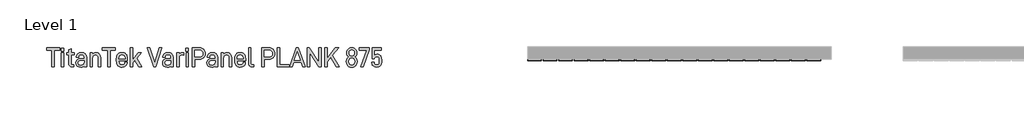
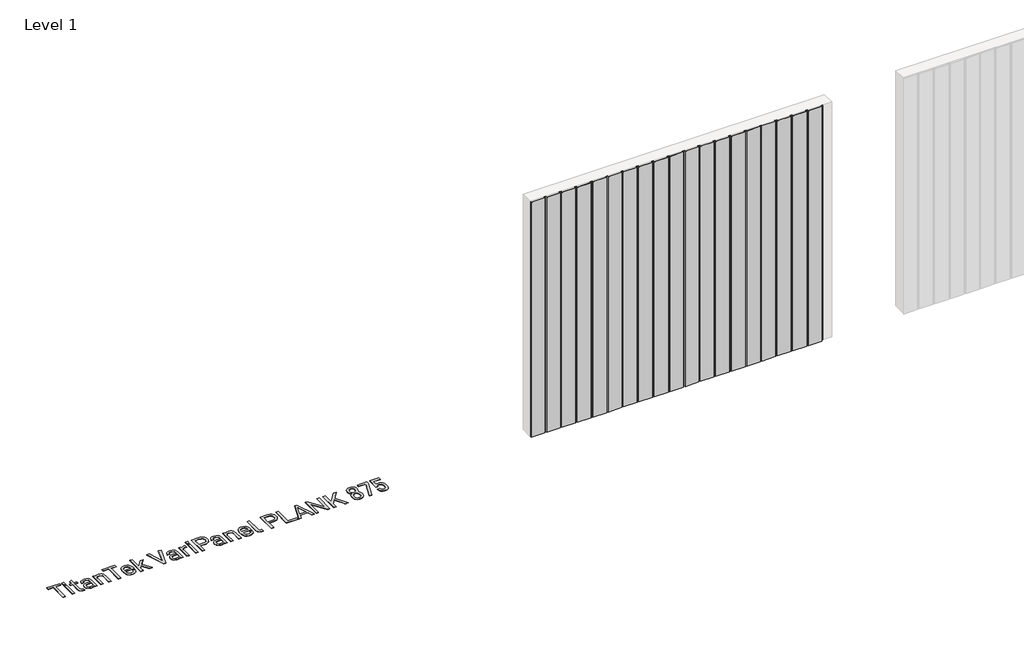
# One storey, part 17 of 33: 2 proxies.
"""IFC4 building model written with IfcOpenShell, lengths in millimetres."""

from ifc_helpers import new_model, si_unit, origin, origin_with_axes, place, context, project, spatial, polyline, outline, extrude, transform, mapped, element, save
from components import aluminum_slate_gray_5a49ca79

model = new_model("IFC4")

# Units and contexts
model_context = context("Model", 3, world=origin())
ifc_project = project(units=[si_unit("LENGTHUNIT", "METRE", prefix="MILLI")], contexts=[model_context])

# Site, building, storey
site = spatial("IfcSite", under=ifc_project)
building = spatial("IfcBuilding", under=site)
storey = spatial("IfcBuildingStorey", under=building, Name="Level 1", Elevation=0.0)

# Proxies
placement = place(None, origin())
element("IfcBuildingElementProxy", 1, Name="600mm Arial 2", ObjectType="600mm Arial 2", at=placement, inside=storey, context=model_context, shape_type="SweptSolid", body=[
    extrude(outline(polyline([(-9914.9924556, 47220.4128343), (-9914.9924556, 46952.9873502), (-9954.4439015, 46952.9873502), (-9954.4439015, 47220.4128343), (-10038.8787304, 47220.4128343), (-10038.8787304, 47257.3166776), (-9830.5576267, 47257.3166776), (-9830.5576267, 47220.4128343), (-9914.9924556, 47220.4128343)])), origin_with_axes(), (0.0, 0.0, 1.0), 5.0),
    extrude(outline(polyline([(-9763.1553408, 47253.0221475), (-9763.1553408, 47205.8551051), (-9802.6067867, 47205.8551051), (-9802.6067867, 47253.0221475), (-9763.1553408, 47253.0221475)])), origin_with_axes(), (0.0, 0.0, 1.0), 5.0),
    extrude(outline(polyline([(-9764.0288046, 47178.8505176), (-9764.0288046, 46952.9873502), (-9801.733323, 46952.9873502), (-9801.733323, 47178.8505176), (-9764.0288046, 47178.8505176)])), origin_with_axes(), (0.0, 0.0, 1.0), 5.0),
    extrude(outline(polyline([(-9648.294858, 47012.601251), (-9646.8208879, 47001.5191797), (-9642.3989777, 46993.6034145), (-9635.0291273, 46988.8539554), (-9624.7113368, 46987.2708023), (-9603.2386864, 46987.2708023), (-9603.2386864, 46952.9873502), (-9629.3698101, 46952.9873502), (-9653.1535001, 46956.9543314), (-9671.3688587, 46968.855275), (-9682.6692959, 46987.3981825), (-9686.4361083, 47011.2910554), (-9686.4361083, 47147.1146681), (-9720.2828285, 47147.1146681), (-9720.2828285, 47178.8505176), (-9686.4361083, 47178.8505176), (-9686.4361083, 47226.8910237), (-9648.294858, 47244.8698192), (-9648.294858, 47178.8505176), (-9599.3808881, 47178.8505176), (-9599.3808881, 47147.1146681), (-9648.294858, 47147.1146681), (-9648.294858, 47012.601251)])), origin_with_axes(), (0.0, 0.0, 1.0), 5.0),
    extrude(outline(polyline([(-9422.8684225, 47162.1091291), (-9413.2830677, 47151.3409589), (-9406.4363858, 47138.2526505), (-9400.9590402, 47105.1156196), (-9400.9590402, 46952.9873502), (-9438.2996154, 46952.9873502), (-9438.2996154, 46969.2920069), (-9456.7151427, 46956.8451485), (-9473.7476858, 46952.0410978), (-9493.9829293, 46950.4397476), (-9526.0281305, 46954.7160806), (-9550.1029751, 46967.5450794), (-9565.2248162, 46989.3270816), (-9570.2654299, 47018.5699199), (-9565.1338304, 47046.2114081), (-9549.7390318, 47067.4111012), (-9525.063681, 47080.6222403), (-9493.1094655, 47085.0259534), (-9438.7363472, 47085.0259534), (-9438.7363472, 47105.5523515), (-9441.6296959, 47124.441005), (-9450.3097419, 47138.1616647), (-9464.2305704, 47146.1866129), (-9483.7197302, 47148.8615956), (-9502.2262434, 47146.6051476), (-9515.819523, 47139.8358036), (-9524.1720201, 47129.4816187), (-9526.9561857, 47115.4516073), (-9526.9561857, 47109.8468816), (-9563.8600291, 47109.8468816), (-9563.8600291, 47116.2522824), (-9558.4008807, 47143.2932642), (-9542.0234354, 47164.2927885), (-9516.8203668, 47177.4493362), (-9484.1564621, 47181.8348521), (-9448.6719974, 47176.9034213), (-9434.5600987, 47170.7391329), (-9422.8684225, 47162.1091291)]), holes=[polyline([(-9450.6736851, 46994.5496669), (-9441.7206817, 47009.4531421), (-9438.7363472, 47031.0167784), (-9438.7363472, 47054.9642428), (-9488.8149354, 47054.9642428), (-9507.9538, 47052.7168933), (-9521.6244175, 47045.974845), (-9529.826788, 47034.7380979), (-9532.5609115, 47019.0066518), (-9529.8540837, 47003.0522906), (-9521.7336004, 46991.6563182), (-9508.1994616, 46984.8187348), (-9489.2516673, 46982.5395404), (-9466.104878, 46985.542072), (-9450.6736851, 46994.5496669)])]), origin_with_axes(), (0.0, 0.0, 1.0), 5.0),
    extrude(outline(polyline([(-9306.6977441, 47178.8505176), (-9306.6977441, 47160.4349903), (-9288.2822167, 47173.6825238), (-9271.1222935, 47179.4692211), (-9252.2518372, 47181.3981202), (-9219.9154813, 47175.9389718), (-9206.7907787, 47169.1150363), (-9195.6950595, 47159.5615265), (-9187.0650557, 47147.9790333), (-9180.9007673, 47134.1946835), (-9175.9693365, 47100.0204144), (-9175.9693365, 46952.9873502), (-9213.673855, 46952.9873502), (-9213.673855, 47095.7258843), (-9216.6763866, 47118.1083928), (-9225.6839815, 47133.8671346), (-9240.3781893, 47143.4752358), (-9259.567096, 47146.6779363), (-9278.7378056, 47143.4752358), (-9293.3774219, 47133.8671346), (-9303.0401146, 47117.453295), (-9306.2610122, 47095.7258843), (-9306.2610122, 46952.9873502), (-9343.9655306, 46952.9873502), (-9343.9655306, 47178.8505176), (-9306.6977441, 47178.8505176)])), origin_with_axes(), (0.0, 0.0, 1.0), 5.0),
    extrude(outline(polyline([(-9025.2240514, 47220.4128343), (-9025.2240514, 46952.9873502), (-9064.6754974, 46952.9873502), (-9064.6754974, 47220.4128343), (-9149.1103263, 47220.4128343), (-9149.1103263, 47257.3166776), (-8940.7892225, 47257.3166776), (-8940.7892225, 47220.4128343), (-9025.2240514, 47220.4128343)])), origin_with_axes(), (0.0, 0.0, 1.0), 5.0),
    extrude(outline(polyline([(-8884.5235994, 47047.2486463), (-8881.1025331, 47017.8329349), (-8870.8393341, 46998.8805913), (-8854.3527058, 46988.5900965), (-8832.2613519, 46985.1599316), (-8812.990558, 46987.7257314), (-8798.8513635, 46995.4231306), (-8790.1713175, 47007.1966941), (-8787.2779689, 47022.86445), (-8787.2779689, 47028.3963871), (-8750.3741256, 47028.3963871), (-8750.3741256, 47021.9909863), (-8756.0516399, 46992.8391337), (-8763.1485329, 46980.528754), (-8773.084183, 46969.7287387), (-8799.7976159, 46955.2619954), (-8834.3722226, 46950.4397476), (-8853.3222916, 46951.9387388), (-8870.2843206, 46956.4357123), (-8885.2583098, 46963.9306682), (-8898.2442591, 46974.4236064), (-8908.7371973, 46988.0237099), (-8916.2321532, 47004.8401617), (-8920.7291267, 47024.8729617), (-8922.2281179, 47048.1221101), (-8922.2281179, 47085.8266285), (-8920.7314014, 47108.5321367), (-8916.2412518, 47128.1714231), (-8908.7576691, 47144.7444879), (-8898.2806535, 47158.2513309), (-8885.4971476, 47168.5691214), (-8870.7301511, 47175.9389718), (-8853.979664, 47180.360882), (-8835.2456864, 47181.8348521), (-8816.8438069, 47180.360882), (-8800.2161506, 47175.9389718), (-8785.3627176, 47168.5691214), (-8772.2835079, 47158.2513309), (-8761.9657174, 47144.9082623), (-8754.595867, 47128.389789), (-8750.1739568, 47108.6959111), (-8748.6999867, 47085.8266285), (-8748.6999867, 47055.8377065), (-8884.5235994, 47055.8377065), (-8884.5235994, 47047.2486463)]), holes=[polyline([(-8871.2760659, 47133.4304027), (-8881.2117161, 47115.30603), (-8884.5235994, 47086.7000923), (-8786.4045051, 47086.2633604), (-8786.4045051, 47089.6844267), (-8789.6254027, 47116.9255774), (-8799.2880954, 47134.3038665), (-8814.9012599, 47143.5844188), (-8835.2456864, 47146.6779363), (-8855.60831, 47143.3660529), (-8871.2760659, 47133.4304027)])]), origin_with_axes(), (0.0, 0.0, 1.0), 5.0),
    extrude(outline(polyline([(-8663.391694, 47020.3168474), (-8663.391694, 46952.9873502), (-8701.0962125, 46952.9873502), (-8701.0962125, 47257.3166776), (-8663.391694, 47257.3166776), (-8663.391694, 47070.8321675), (-8575.0990669, 47178.8505176), (-8528.3687564, 47178.8505176), (-8602.5403863, 47091.8680861), (-8517.6688255, 46952.9873502), (-8563.5256722, 46952.9873502), (-8627.7980463, 47062.6798392), (-8663.391694, 47020.3168474)])), origin_with_axes(), (0.0, 0.0, 1.0), 5.0),
    extrude(outline(polyline([(-8240.5624516, 47257.3166776), (-8199.0001349, 47257.3166776), (-8298.4294248, 46952.9873502), (-8330.1652743, 46952.9873502), (-8429.1578324, 47257.3166776), (-8387.5955157, 47257.3166776), (-8313.8606177, 47022.86445), (-8240.5624516, 47257.3166776)])), origin_with_axes(), (0.0, 0.0, 1.0), 5.0),
    extrude(outline(polyline([(-8039.3018464, 47162.1091291), (-8029.7164916, 47151.3409589), (-8022.8698097, 47138.2526505), (-8017.3924641, 47105.1156196), (-8017.3924641, 46952.9873502), (-8054.7330393, 46952.9873502), (-8054.7330393, 46969.2920069), (-8073.1485666, 46956.8451485), (-8090.1811097, 46952.0410978), (-8110.4163532, 46950.4397476), (-8142.4615544, 46954.7160806), (-8166.536399, 46967.5450794), (-8181.6582401, 46989.3270816), (-8186.6988538, 47018.5699199), (-8181.5672543, 47046.2114081), (-8166.1724557, 47067.4111012), (-8141.4971049, 47080.6222403), (-8109.5428894, 47085.0259534), (-8055.1697712, 47085.0259534), (-8055.1697712, 47105.5523515), (-8058.0631198, 47124.441005), (-8066.7431658, 47138.1616647), (-8080.6639943, 47146.1866129), (-8100.1531542, 47148.8615956), (-8118.6596673, 47146.6051476), (-8132.2529469, 47139.8358036), (-8140.605444, 47129.4816187), (-8143.3896097, 47115.4516073), (-8143.3896097, 47109.8468816), (-8180.293453, 47109.8468816), (-8180.293453, 47116.2522824), (-8174.8343046, 47143.2932642), (-8158.4568593, 47164.2927885), (-8133.2537908, 47177.4493362), (-8100.589886, 47181.8348521), (-8065.1054213, 47176.9034213), (-8050.9935226, 47170.7391329), (-8039.3018464, 47162.1091291)]), holes=[polyline([(-8067.107109, 46994.5496669), (-8058.1541056, 47009.4531421), (-8055.1697712, 47031.0167784), (-8055.1697712, 47054.9642428), (-8105.2483594, 47054.9642428), (-8124.3872239, 47052.7168933), (-8138.0578414, 47045.974845), (-8146.2602119, 47034.7380979), (-8148.9943354, 47019.0066518), (-8146.2875076, 47003.0522906), (-8138.1670243, 46991.6563182), (-8124.6328855, 46984.8187348), (-8105.6850912, 46982.5395404), (-8082.5383019, 46985.542072), (-8067.107109, 46994.5496669)])]), origin_with_axes(), (0.0, 0.0, 1.0), 5.0),
    extrude(outline(polyline([(-7870.4321886, 47181.8348521), (-7850.2697337, 47179.7239814), (-7850.2697337, 47140.7092673), (-7876.8375894, 47146.313993), (-7895.1712295, 47142.7746451), (-7909.8472402, 47132.1566015), (-7919.4826371, 47115.7518604), (-7922.6944361, 47094.8524206), (-7922.6944361, 46952.9873502), (-7960.3989546, 46952.9873502), (-7960.3989546, 47178.8505176), (-7923.131168, 47178.8505176), (-7923.131168, 47159.1247947), (-7905.5891044, 47173.3185806), (-7889.4846166, 47179.7057842), (-7870.4321886, 47181.8348521)])), origin_with_axes(), (0.0, 0.0, 1.0), 5.0),
    extrude(outline(polyline([(-7773.9872331, 47253.0221475), (-7773.9872331, 47205.8551051), (-7813.438679, 47205.8551051), (-7813.438679, 47253.0221475), (-7773.9872331, 47253.0221475)])), origin_with_axes(), (0.0, 0.0, 1.0), 5.0),
    extrude(outline(polyline([(-7774.8606969, 47178.8505176), (-7774.8606969, 46952.9873502), (-7812.5652153, 46952.9873502), (-7812.5652153, 47178.8505176), (-7774.8606969, 47178.8505176)])), origin_with_axes(), (0.0, 0.0, 1.0), 5.0),
    extrude(outline(polyline([(-7529.6357497, 47233.2964245), (-7518.2033831, 47219.8396237), (-7510.0374069, 47203.926206), (-7505.1378212, 47185.5561716), (-7503.504626, 47164.7295204), (-7505.1651169, 47145.044741), (-7510.1465899, 47127.5527196), (-7518.4490448, 47112.2534562), (-7530.0724816, 47099.1469507), (-7544.1297888, 47088.6380899), (-7560.6073184, 47081.1317609), (-7579.5050706, 47076.6279634), (-7600.8230452, 47075.1266976), (-7671.5008201, 47075.1266976), (-7671.5008201, 46952.9873502), (-7711.3889979, 46952.9873502), (-7711.3889979, 47257.3166776), (-7600.8230452, 47257.3166776), (-7579.6415493, 47255.8154118), (-7560.7165014, 47251.3116143), (-7544.0479016, 47243.8052853), (-7529.6357497, 47233.2964245)]), holes=[polyline([(-7558.3872648, 47125.2780744), (-7547.141419, 47141.5827311), (-7543.3928038, 47164.7295204), (-7547.250602, 47189.3502798), (-7558.8239966, 47206.7285689), (-7577.8946218, 47216.9917679), (-7603.3706478, 47220.4128343), (-7671.5008201, 47220.4128343), (-7671.5008201, 47112.0305409), (-7603.3706478, 47112.0305409), (-7577.130341, 47115.3424243), (-7558.3872648, 47125.2780744)])]), origin_with_axes(), (0.0, 0.0, 1.0), 5.0),
    extrude(outline(polyline([(-7331.2139018, 47162.1091291), (-7321.628547, 47151.3409589), (-7314.781865, 47138.2526505), (-7309.3045194, 47105.1156196), (-7309.3045194, 46952.9873502), (-7346.6450946, 46952.9873502), (-7346.6450946, 46969.2920069), (-7365.060622, 46956.8451485), (-7382.093165, 46952.0410978), (-7402.3284085, 46950.4397476), (-7434.3736098, 46954.7160806), (-7458.4484543, 46967.5450794), (-7473.5702954, 46989.3270816), (-7478.6109091, 47018.5699199), (-7473.4793096, 47046.2114081), (-7458.0845111, 47067.4111012), (-7433.4091602, 47080.6222403), (-7401.4549448, 47085.0259534), (-7347.0818265, 47085.0259534), (-7347.0818265, 47105.5523515), (-7349.9751752, 47124.441005), (-7358.6552212, 47138.1616647), (-7372.5760496, 47146.1866129), (-7392.0652095, 47148.8615956), (-7410.5717226, 47146.6051476), (-7424.1650022, 47139.8358036), (-7432.5174993, 47129.4816187), (-7435.301665, 47115.4516073), (-7435.301665, 47109.8468816), (-7472.2055083, 47109.8468816), (-7472.2055083, 47116.2522824), (-7466.7463599, 47143.2932642), (-7450.3689146, 47164.2927885), (-7425.1658461, 47177.4493362), (-7392.5019414, 47181.8348521), (-7357.0174766, 47176.9034213), (-7342.905578, 47170.7391329), (-7331.2139018, 47162.1091291)]), holes=[polyline([(-7359.0191644, 46994.5496669), (-7350.066161, 47009.4531421), (-7347.0818265, 47031.0167784), (-7347.0818265, 47054.9642428), (-7397.1604147, 47054.9642428), (-7416.2992792, 47052.7168933), (-7429.9698967, 47045.974845), (-7438.1722672, 47034.7380979), (-7440.9063907, 47019.0066518), (-7438.199563, 47003.0522906), (-7430.0790797, 46991.6563182), (-7416.5449409, 46984.8187348), (-7397.5971466, 46982.5395404), (-7374.4503573, 46985.542072), (-7359.0191644, 46994.5496669)])]), origin_with_axes(), (0.0, 0.0, 1.0), 5.0),
    extrude(outline(polyline([(-7215.0432233, 47178.8505176), (-7215.0432233, 47160.4349903), (-7196.627696, 47173.6825238), (-7179.4677728, 47179.4692211), (-7160.5973164, 47181.3981202), (-7128.2609606, 47175.9389718), (-7115.1362579, 47169.1150363), (-7104.0405387, 47159.5615265), (-7095.410535, 47147.9790333), (-7089.2462465, 47134.1946835), (-7084.3148158, 47100.0204144), (-7084.3148158, 46952.9873502), (-7122.0193342, 46952.9873502), (-7122.0193342, 47095.7258843), (-7125.0218659, 47118.1083928), (-7134.0294607, 47133.8671346), (-7148.7236686, 47143.4752358), (-7167.9125753, 47146.6779363), (-7187.0832848, 47143.4752358), (-7201.7229012, 47133.8671346), (-7211.3855939, 47117.453295), (-7214.6064915, 47095.7258843), (-7214.6064915, 46952.9873502), (-7252.3110099, 46952.9873502), (-7252.3110099, 47178.8505176), (-7215.0432233, 47178.8505176)])), origin_with_axes(), (0.0, 0.0, 1.0), 5.0),
    extrude(outline(polyline([(-6997.8419048, 47047.2486463), (-6994.4208384, 47017.8329349), (-6984.1576394, 46998.8805913), (-6967.6710112, 46988.5900965), (-6945.5796572, 46985.1599316), (-6926.3088633, 46987.7257314), (-6912.1696689, 46995.4231306), (-6903.4896229, 47007.1966941), (-6900.5962742, 47022.86445), (-6900.5962742, 47028.3963871), (-6863.6924309, 47028.3963871), (-6863.6924309, 47021.9909863), (-6869.3699452, 46992.8391337), (-6876.4668382, 46980.528754), (-6886.4024883, 46969.7287387), (-6913.1159213, 46955.2619954), (-6947.6905279, 46950.4397476), (-6966.6405969, 46951.9387388), (-6983.602626, 46956.4357123), (-6998.5766152, 46963.9306682), (-7011.5625645, 46974.4236064), (-7022.0555027, 46988.0237099), (-7029.5504585, 47004.8401617), (-7034.047432, 47024.8729617), (-7035.5464232, 47048.1221101), (-7035.5464232, 47085.8266285), (-7034.0497067, 47108.5321367), (-7029.5595571, 47128.1714231), (-7022.0759745, 47144.7444879), (-7011.5989588, 47158.2513309), (-6998.8154529, 47168.5691214), (-6984.0484564, 47175.9389718), (-6967.2979694, 47180.360882), (-6948.5639917, 47181.8348521), (-6930.1621122, 47180.360882), (-6913.534456, 47175.9389718), (-6898.681023, 47168.5691214), (-6885.6018132, 47158.2513309), (-6875.2840227, 47144.9082623), (-6867.9141723, 47128.389789), (-6863.4922621, 47108.6959111), (-6862.018292, 47085.8266285), (-6862.018292, 47055.8377065), (-6997.8419048, 47055.8377065), (-6997.8419048, 47047.2486463)]), holes=[polyline([(-6984.5943713, 47133.4304027), (-6994.5300214, 47115.30603), (-6997.8419048, 47086.7000923), (-6899.7228105, 47086.2633604), (-6899.7228105, 47089.6844267), (-6902.943708, 47116.9255774), (-6912.6064007, 47134.3038665), (-6928.2195652, 47143.5844188), (-6948.5639917, 47146.6779363), (-6968.9266153, 47143.3660529), (-6984.5943713, 47133.4304027)])]), origin_with_axes(), (0.0, 0.0, 1.0), 5.0),
    extrude(outline(polyline([(-6799.4200568, 46968.855275), (-6810.6659025, 46988.362632), (-6814.4145178, 47014.2753899), (-6814.4145178, 47257.3166776), (-6776.7099994, 47257.3166776), (-6776.7099994, 47016.0223174), (-6775.3270151, 47002.6110094), (-6771.1780623, 46994.112935), (-6764.1903523, 46989.6364333), (-6753.5632101, 46988.1442661), (-6731.7266164, 46988.1442661), (-6731.7266164, 46952.9873502), (-6756.5475445, 46952.9873502), (-6781.4230642, 46956.9543314), (-6799.4200568, 46968.855275)])), origin_with_axes(), (0.0, 0.0, 1.0), 5.0),
    extrude(outline(polyline([(-6420.9190995, 47233.2964245), (-6409.4867329, 47219.8396237), (-6401.3207567, 47203.926206), (-6396.421171, 47185.5561716), (-6394.7879758, 47164.7295204), (-6396.4484667, 47145.044741), (-6401.4299397, 47127.5527196), (-6409.7323946, 47112.2534562), (-6421.3558314, 47099.1469507), (-6435.4131386, 47088.6380899), (-6451.8906682, 47081.1317609), (-6470.7884204, 47076.6279634), (-6492.106395, 47075.1266976), (-6562.7841699, 47075.1266976), (-6562.7841699, 46952.9873502), (-6602.6723477, 46952.9873502), (-6602.6723477, 47257.3166776), (-6492.106395, 47257.3166776), (-6470.9248991, 47255.8154118), (-6451.9998512, 47251.3116143), (-6435.3312514, 47243.8052853), (-6420.9190995, 47233.2964245)]), holes=[polyline([(-6449.6706146, 47125.2780744), (-6438.4247688, 47141.5827311), (-6434.6761536, 47164.7295204), (-6438.5339518, 47189.3502798), (-6450.1073464, 47206.7285689), (-6469.1779716, 47216.9917679), (-6494.6539976, 47220.4128343), (-6562.7841699, 47220.4128343), (-6562.7841699, 47112.0305409), (-6494.6539976, 47112.0305409), (-6468.4136908, 47115.3424243), (-6449.6706146, 47125.2780744)])]), origin_with_axes(), (0.0, 0.0, 1.0), 5.0),
    extrude(outline(polyline([(-6315.8850839, 47257.3166776), (-6315.8850839, 46989.8184049), (-6168.4880765, 46989.8184049), (-6168.4880765, 46952.9873502), (-6355.7732617, 46952.9873502), (-6355.7732617, 47257.3166776), (-6315.8850839, 47257.3166776)])), origin_with_axes(), (0.0, 0.0, 1.0), 5.0),
    extrude(outline(polyline([(-6093.6613488, 47024.1746457), (-6118.482277, 46952.9873502), (-6160.4813255, 46952.9873502), (-6049.9153728, 47257.3166776), (-6017.81558, 47257.3166776), (-5907.1768387, 46952.9873502), (-5949.1758872, 46952.9873502), (-5974.069604, 47024.1746457), (-6093.6613488, 47024.1746457)]), holes=[polyline([(-6034.047448, 47196.4653699), (-6081.6512223, 47059.2587729), (-5986.0797306, 47059.2587729), (-6034.047448, 47196.4653699)])]), origin_with_axes(), (0.0, 0.0, 1.0), 5.0),
    extrude(outline(polyline([(-5696.3081323, 47257.3166776), (-5656.4199545, 47257.3166776), (-5656.4199545, 46952.9873502), (-5694.1972616, 46952.9873502), (-5840.7208052, 47181.3981202), (-5840.7208052, 46952.9873502), (-5880.608983, 46952.9873502), (-5880.608983, 47257.3166776), (-5842.9044646, 47257.3166776), (-5696.3081323, 47029.7065827), (-5696.3081323, 47257.3166776)])), origin_with_axes(), (0.0, 0.0, 1.0), 5.0),
    extrude(outline(polyline([(-5556.5539327, 47036.9854473), (-5556.5539327, 46952.9873502), (-5596.4421105, 46952.9873502), (-5596.4421105, 47257.3166776), (-5556.5539327, 47257.3166776), (-5556.5539327, 47093.1054931), (-5426.262257, 47257.3166776), (-5377.8578077, 47257.3166776), (-5475.1762269, 47137.288201), (-5365.8476812, 46952.9873502), (-5412.5779917, 46952.9873502), (-5500.8706188, 47105.5523515), (-5556.5539327, 47036.9854473)])), origin_with_axes(), (0.0, 0.0, 1.0), 5.0),
    extrude(outline(polyline([(-5211.8996957, 46959.3927511), (-5229.1506047, 46972.0761726), (-5242.3253495, 46989.4544617), (-5250.3502977, 47010.4175916), (-5253.0252804, 47034.0011128), (-5253.0252804, 47044.7010437), (-5250.1319318, 47067.8660302), (-5241.4518858, 47088.4470198), (-5230.1150542, 47102.7681858), (-5216.6309576, 47113.2679479), (-5237.1573557, 47134.7405984), (-5244.5817975, 47153.1379286), (-5247.0566115, 47174.1192557), (-5247.0566115, 47182.7083158), (-5244.5817975, 47203.3802912), (-5237.1573557, 47222.5964936), (-5224.7468916, 47238.9739389), (-5208.9153612, 47251.27522), (-5189.5353843, 47258.9726193), (-5167.3530445, 47261.5384191), (-5144.8431559, 47258.9726193), (-5125.353996, 47251.27522), (-5109.0311422, 47238.9739389), (-5097.0392129, 47222.5964936), (-5089.6693625, 47204.035389), (-5087.2127457, 47182.7083158), (-5087.2127457, 47174.1192557), (-5089.7785455, 47152.9195626), (-5097.4759447, 47134.7405984), (-5106.2651737, 47123.1490066), (-5118.0751314, 47113.2679479), (-5103.590191, 47101.8219334), (-5092.7446828, 47088.0102879), (-5084.3921857, 47067.4292983), (-5081.60802, 47045.1377756), (-5081.60802, 47034.4378447), (-5084.3921857, 47009.9080711), (-5092.7446828, 46989.4544617), (-5105.9194276, 46972.0761726), (-5123.1703366, 46959.3927511), (-5144.1880581, 46951.3678029), (-5167.7897764, 46948.6928201), (-5191.0093544, 46951.3678029), (-5211.8996957, 46959.3927511)]), holes=[polyline([(-5138.1647976, 47142.8929267), (-5129.8123006, 47156.8865438), (-5127.0281349, 47174.1192557), (-5127.0281349, 47183.1450477), (-5129.8123006, 47199.7408589), (-5138.1647976, 47213.5707016), (-5151.2485567, 47222.2507476), (-5167.3530445, 47225.1440962), (-5183.5121239, 47222.2507476), (-5196.0317709, 47213.5707016), (-5204.384268, 47199.7408589), (-5207.1684337, 47183.1450477), (-5207.1684337, 47174.1192557), (-5204.493451, 47156.2678403), (-5196.4685028, 47142.8929267), (-5183.8305742, 47133.8853318), (-5167.3166502, 47130.8828002), (-5150.8027262, 47133.8853318), (-5138.1647976, 47142.8929267)]), polyline([(-5133.8702675, 46998.4074651), (-5124.5897152, 47014.293587), (-5121.4961978, 47034.4378447), (-5121.4961978, 47045.1377756), (-5124.5897152, 47065.2820333), (-5133.8702675, 47081.1681552), (-5148.2460251, 47091.1038053), (-5167.3530445, 47094.4156887), (-5186.1871066, 47090.9855238), (-5200.7630329, 47080.695029), (-5210.0981767, 47064.9453858), (-5213.2098913, 47045.1377756), (-5213.2098913, 47034.4378447), (-5210.0981767, 47014.6302345), (-5200.7630329, 46998.8805913), (-5186.1871066, 46988.5900965), (-5167.3530445, 46985.1599316), (-5148.6827569, 46988.471815), (-5133.8702675, 46998.4074651)])]), origin_with_axes(), (0.0, 0.0, 1.0), 5.0),
    extrude(outline(polyline([(-4886.2432951, 47223.8339006), (-4983.9256576, 46952.9873502), (-5024.2505672, 46952.9873502), (-4926.4954162, 47220.4128343), (-5045.2136972, 47220.4128343), (-5045.2136972, 47257.3166776), (-4886.2432951, 47257.3166776), (-4886.2432951, 47223.8339006)])), origin_with_axes(), (0.0, 0.0, 1.0), 5.0),
    extrude(outline(polyline([(-4826.3382398, 46968.4185431), (-4835.7006793, 46978.9728967), (-4842.3881361, 46991.3469665), (-4847.7381016, 47021.5542544), (-4847.7381016, 47031.4535102), (-4809.1601194, 47031.4535102), (-4809.1601194, 47024.1746457), (-4806.5943196, 47007.7426089), (-4798.8969204, 46995.4231306), (-4786.0497244, 46988.0532803), (-4768.9079984, 46985.5966635), (-4751.1066252, 46988.8084625), (-4738.3913587, 46998.4438594), (-4730.7621988, 47014.5028544), (-4728.2191455, 47036.9854473), (-4728.2191455, 47064.8634986), (-4730.6757623, 47088.2286538), (-4738.0456126, 47104.3149445), (-4750.3468937, 47113.5954968), (-4768.4712665, 47116.6890143), (-4781.8643773, 47114.8692981), (-4792.9282514, 47109.4101497), (-4802.1360151, 47099.8748371), (-4808.3594443, 47086.7000923), (-4843.0796283, 47086.7000923), (-4843.0796283, 47257.3166776), (-4693.0622296, 47257.3166776), (-4693.0622296, 47219.9761024), (-4805.7390531, 47219.9761024), (-4805.7390531, 47139.8358036), (-4792.0547877, 47147.9881319), (-4764.1767364, 47153.5928576), (-4746.4754476, 47152.1461833), (-4731.0760998, 47147.8061603), (-4717.9786929, 47140.5727886), (-4707.1832269, 47130.4460683), (-4693.0440325, 47103.1139318), (-4688.3309677, 47066.5376374), (-4688.3309677, 47034.4378447), (-4693.6900317, 46998.5166481), (-4700.3888617, 46983.8588346), (-4709.7672238, 46971.4028776), (-4721.4748225, 46961.4672275), (-4735.1613625, 46954.3703345), (-4768.4712665, 46948.6928201), (-4801.3535372, 46953.6242509), (-4826.3382398, 46968.4185431)])), origin_with_axes(), (0.0, 0.0, 1.0), 5.0),
])
aluminum_slate_gray_shape = aluminum_slate_gray_5a49ca79(model_context)
element("IfcBuildingElementProxy", 2, Name="TitanTek VariPanel PLANK 875 : Aluminum Slate Gray", ObjectType="TitanTek VariPanel PLANK 875 : Aluminum Slate Gray", at=placement, inside=storey, context=model_context, shape_type="MappedRepresentation", body=[
    mapped(aluminum_slate_gray_shape, transform((-2360.5897817, 47078.6095025, 0.0), x_axis=(1.0, 0.0, 0.0), y_axis=(0.0, 1.0, 0.0), z_axis=(0.0, 0.0, 1.0))),
])

save(model, "model.ifc")
